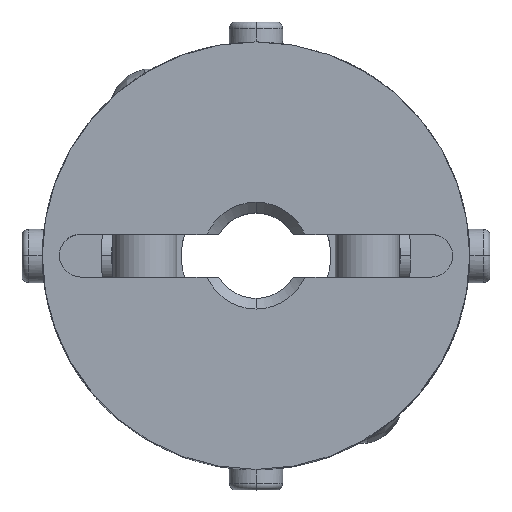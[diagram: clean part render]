
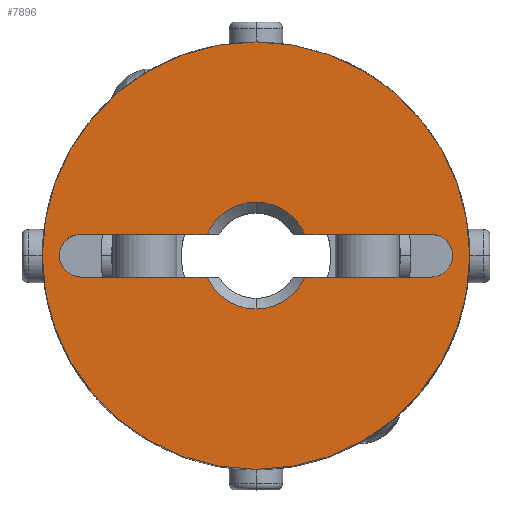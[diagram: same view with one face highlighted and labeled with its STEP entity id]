
A CAD part, top view. The second image highlights one B-rep face of the part: STEP entity #7896.
In plain terms, the highlighted planar face has unit normal (0, 0, 1).
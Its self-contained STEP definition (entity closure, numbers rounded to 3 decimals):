
#633=CARTESIAN_POINT('',(-8.907,-0.707,10.0));
#634=VERTEX_POINT('',#633);
#650=CARTESIAN_POINT('',(-8.2,1.,10.0));
#651=VERTEX_POINT('',#650);
#658=CARTESIAN_POINT('',(-8.2,0.,10.0));
#659=DIRECTION('',(0.0,0.0,1.0));
#660=DIRECTION('',(-0.707,0.707,0.0));
#661=AXIS2_PLACEMENT_3D('',#658,#659,#660);
#662=CIRCLE('',#661,1.);
#663=EDGE_CURVE('',#651,#634,#662,.T.);
#675=CARTESIAN_POINT('',(8.907,0.707,10.0));
#676=VERTEX_POINT('',#675);
#692=CARTESIAN_POINT('',(8.2,-1.,10.0));
#693=VERTEX_POINT('',#692);
#700=CARTESIAN_POINT('',(8.2,0.,10.0));
#701=DIRECTION('',(0.0,0.0,1.0));
#702=DIRECTION('',(0.707,-0.707,0.0));
#703=AXIS2_PLACEMENT_3D('',#700,#701,#702);
#704=CIRCLE('',#703,1.0);
#705=EDGE_CURVE('',#693,#676,#704,.T.);
#715=CARTESIAN_POINT('',(0.,-2.5,10.0));
#716=VERTEX_POINT('',#715);
#724=CARTESIAN_POINT('',(-2.291,-1.,10.0));
#725=VERTEX_POINT('',#724);
#739=CARTESIAN_POINT('',(0.,0.,10.0));
#740=DIRECTION('',(0.0,0.0,1.0));
#741=DIRECTION('',(0.0,-1.0,0.0));
#742=AXIS2_PLACEMENT_3D('',#739,#740,#741);
#743=CIRCLE('',#742,2.5);
#744=EDGE_CURVE('',#725,#716,#743,.T.);
#756=CARTESIAN_POINT('',(0.,2.5,10.0));
#757=VERTEX_POINT('',#756);
#773=CARTESIAN_POINT('',(2.291,1.,10.0));
#774=VERTEX_POINT('',#773);
#788=CARTESIAN_POINT('',(0.,0.,10.0));
#789=DIRECTION('',(0.0,0.0,1.0));
#790=DIRECTION('',(0.0,1.0,0.0));
#791=AXIS2_PLACEMENT_3D('',#788,#789,#790);
#792=CIRCLE('',#791,2.5);
#793=EDGE_CURVE('',#774,#757,#792,.T.);
#1385=CARTESIAN_POINT('',(0.,-10.0,10.0));
#1386=VERTEX_POINT('',#1385);
#1393=CARTESIAN_POINT('',(0.,10.0,10.0));
#1394=VERTEX_POINT('',#1393);
#1395=CARTESIAN_POINT('',(0.0,0.0,10.0));
#1396=DIRECTION('',(0.0,0.0,-1.0));
#1397=DIRECTION('',(0.0,1.0,0.0));
#1398=AXIS2_PLACEMENT_3D('',#1395,#1396,#1397);
#1399=CIRCLE('',#1398,10.0);
#1400=EDGE_CURVE('',#1386,#1394,#1399,.T.);
#7203=CARTESIAN_POINT('',(0.0,0.0,10.0));
#7204=DIRECTION('',(0.0,0.0,-1.0));
#7205=DIRECTION('',(0.0,1.0,0.0));
#7206=AXIS2_PLACEMENT_3D('',#7203,#7204,#7205);
#7207=CIRCLE('',#7206,10.0);
#7208=EDGE_CURVE('',#1394,#1386,#7207,.T.);
#7692=CARTESIAN_POINT('',(2.291,-1.,10.0));
#7693=VERTEX_POINT('',#7692);
#7707=CARTESIAN_POINT('',(8.2,-1.,10.0));
#7708=DIRECTION('',(-1.0,0.0,0.0));
#7709=VECTOR('',#7708,5.909);
#7710=LINE('',#7707,#7709);
#7711=EDGE_CURVE('',#693,#7693,#7710,.T.);
#7770=CARTESIAN_POINT('',(8.2,1.,10.0));
#7771=VERTEX_POINT('',#7770);
#7778=CARTESIAN_POINT('',(2.291,1.,10.0));
#7779=DIRECTION('',(1.0,0.0,0.0));
#7780=VECTOR('',#7779,5.909);
#7781=LINE('',#7778,#7780);
#7782=EDGE_CURVE('',#774,#7771,#7781,.T.);
#7799=CARTESIAN_POINT('',(-2.291,1.,10.0));
#7800=VERTEX_POINT('',#7799);
#7801=CARTESIAN_POINT('',(0.,0.,10.0));
#7802=DIRECTION('',(0.0,0.0,1.0));
#7803=DIRECTION('',(0.0,1.0,0.0));
#7804=AXIS2_PLACEMENT_3D('',#7801,#7802,#7803);
#7805=CIRCLE('',#7804,2.5);
#7806=EDGE_CURVE('',#757,#7800,#7805,.T.);
#7833=CARTESIAN_POINT('',(-8.2,1.,10.0));
#7834=DIRECTION('',(1.0,0.0,0.0));
#7835=VECTOR('',#7834,5.909);
#7836=LINE('',#7833,#7835);
#7837=EDGE_CURVE('',#651,#7800,#7836,.T.);
#7848=CARTESIAN_POINT('',(0.,0.909,10.0));
#7849=DIRECTION('',(0.0,0.0,1.0));
#7850=DIRECTION('',(0.0,1.0,0.0));
#7851=AXIS2_PLACEMENT_3D('',#7848,#7849,#7850);
#7852=PLANE('',#7851);
#7853=ORIENTED_EDGE('',*,*,#7208,.F.);
#7854=ORIENTED_EDGE('',*,*,#1400,.F.);
#7855=EDGE_LOOP('',(#7853,#7854));
#7856=FACE_OUTER_BOUND('',#7855,.T.);
#7857=ORIENTED_EDGE('',*,*,#793,.F.);
#7858=ORIENTED_EDGE('',*,*,#7782,.T.);
#7859=CARTESIAN_POINT('',(8.2,0.,10.0));
#7860=DIRECTION('',(0.0,0.0,1.0));
#7861=DIRECTION('',(0.707,-0.707,0.0));
#7862=AXIS2_PLACEMENT_3D('',#7859,#7860,#7861);
#7863=CIRCLE('',#7862,1.0);
#7864=EDGE_CURVE('',#676,#7771,#7863,.T.);
#7865=ORIENTED_EDGE('',*,*,#7864,.F.);
#7866=ORIENTED_EDGE('',*,*,#705,.F.);
#7867=ORIENTED_EDGE('',*,*,#7711,.T.);
#7868=CARTESIAN_POINT('',(0.,0.,10.0));
#7869=DIRECTION('',(0.0,0.0,1.0));
#7870=DIRECTION('',(0.0,-1.0,0.0));
#7871=AXIS2_PLACEMENT_3D('',#7868,#7869,#7870);
#7872=CIRCLE('',#7871,2.5);
#7873=EDGE_CURVE('',#716,#7693,#7872,.T.);
#7874=ORIENTED_EDGE('',*,*,#7873,.F.);
#7875=ORIENTED_EDGE('',*,*,#744,.F.);
#7876=CARTESIAN_POINT('',(-8.2,-1.,10.0));
#7877=VERTEX_POINT('',#7876);
#7878=CARTESIAN_POINT('',(-2.291,-1.,10.0));
#7879=DIRECTION('',(-1.0,0.0,0.0));
#7880=VECTOR('',#7879,5.909);
#7881=LINE('',#7878,#7880);
#7882=EDGE_CURVE('',#725,#7877,#7881,.T.);
#7883=ORIENTED_EDGE('',*,*,#7882,.T.);
#7884=CARTESIAN_POINT('',(-8.2,0.,10.0));
#7885=DIRECTION('',(0.0,0.0,1.0));
#7886=DIRECTION('',(-0.707,0.707,0.0));
#7887=AXIS2_PLACEMENT_3D('',#7884,#7885,#7886);
#7888=CIRCLE('',#7887,1.);
#7889=EDGE_CURVE('',#634,#7877,#7888,.T.);
#7890=ORIENTED_EDGE('',*,*,#7889,.F.);
#7891=ORIENTED_EDGE('',*,*,#663,.F.);
#7892=ORIENTED_EDGE('',*,*,#7837,.T.);
#7893=ORIENTED_EDGE('',*,*,#7806,.F.);
#7894=EDGE_LOOP('',(#7857,#7858,#7865,#7866,#7867,#7874,#7875,#7883,#7890,#7891,#7892,#7893));
#7895=FACE_BOUND('',#7894,.T.);
#7896=ADVANCED_FACE('',(#7856,#7895),#7852,.T.);
